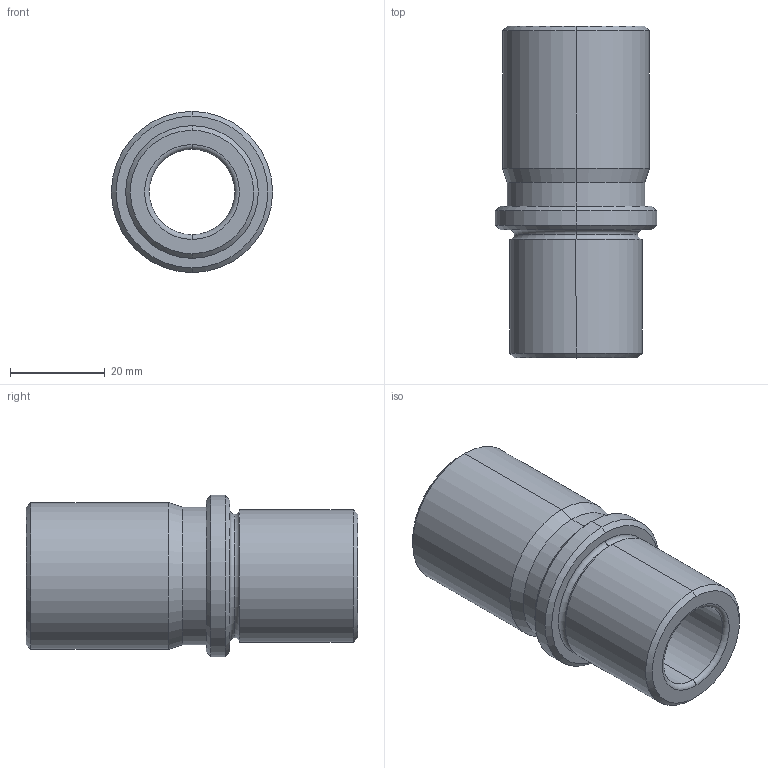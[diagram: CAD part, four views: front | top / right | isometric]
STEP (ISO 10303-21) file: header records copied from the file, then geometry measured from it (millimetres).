
FILE_DESCRIPTION(('CATIA V5 STEP Exchange'),'2;1');
FILE_NAME('C:\Users\Utente\Desktop\IO LAVORO\3D X SITO CF\X SITO\CF 450\CF 450 18x70.stp','2020-12-27T17:58:39+00:00',('none'),('none'),'CATIA Version 5 Release 20 GA (IN-10)','CATIA V5 STEP AP203','none');
FILE_SCHEMA(('CONFIG_CONTROL_DESIGN'));
Length unit declared in the file: millimetre
Products named in the file (1): CF 450 18x70
Bounding box: 34 x 70 x 34 mm (x, y, z)
Volume: 31064.9 mm3; surface area: 11745.2 mm2
Topology: 1 solids, 1 shells, 32 faces, 98 edges, 70 vertices
Faces by surface type: cone 10, cylinder 10, torus 8, plane 4
Entity records: 1188 total; most frequent: CARTESIAN_POINT 257, ORIENTED_EDGE 196, DIRECTION 158, AXIS2_PLACEMENT_3D 107, EDGE_CURVE 98, CIRCLE 74, VERTEX_POINT 70, EDGE_LOOP 36
